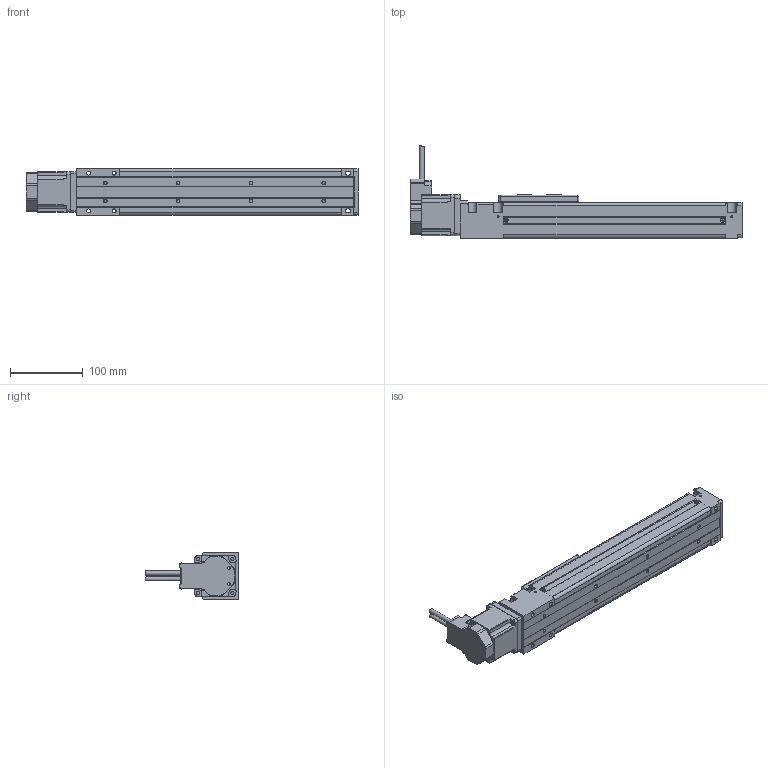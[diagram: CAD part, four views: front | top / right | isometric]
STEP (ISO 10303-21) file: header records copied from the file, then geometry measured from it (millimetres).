
FILE_DESCRIPTION(/* description */ ('Alibre Inc.'),/* implementation_level */ '2;1');
FILE_NAME(/* name */ 'export0',/* time_stamp */ '2010-04-01T10:41:05-04:00',/* author */ (''),/* organization */ (''),/* preprocessor_version */ 'ST-DEVELOPER v10',/* originating_system */ 'Alibre',/* authorisation */ '');
FILE_SCHEMA (('CONFIG_CONTROL_DESIGN'));
Length unit declared in the file: millimetre
Products named in the file (6): 1; 2; ID_1; ID_2; ID_3
Bounding box: 456 x 127.68 x 64 mm (x, y, z)
Volume: 638664.4 mm3; surface area: 246039.3 mm2
Topology: 4 solids, 4 shells, 810 faces, 2132 edges, 1338 vertices
Faces by surface type: plane 492, cylinder 208, cone 78, torus 28, sphere 4
Full cylindrical faces by diameter (mm): 3.5 x2, 4.5 x4, 5.5 x1, 6.5 x1, 8 x1, 38.13 x1, 38.15 x1
Entity records: 24836 total; most frequent: CARTESIAN_POINT 4524, ORIENTED_EDGE 4196, DIRECTION 3716, EDGE_CURVE 2098, VECTOR 1522, LINE 1522, AXIS2_PLACEMENT_3D 1353, VERTEX_POINT 1331
